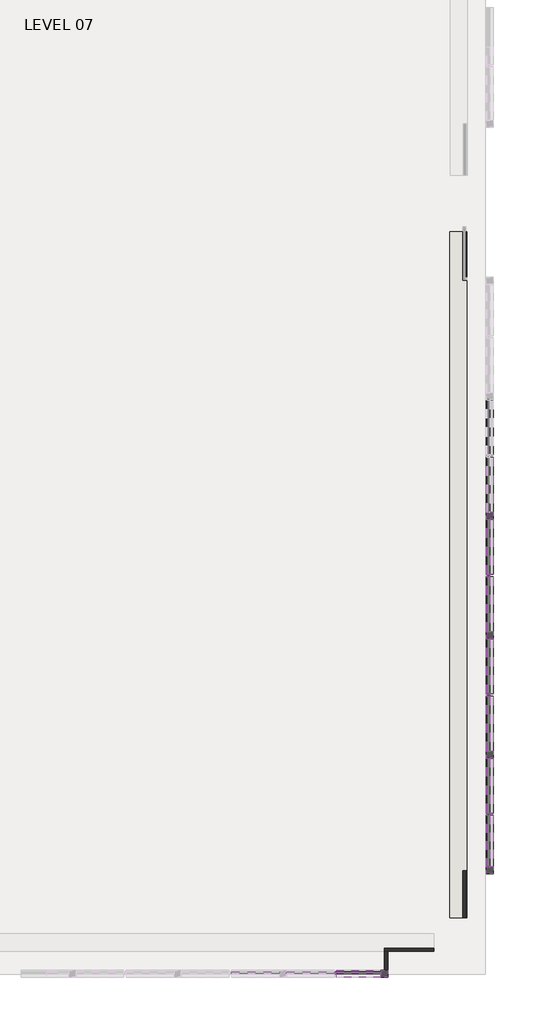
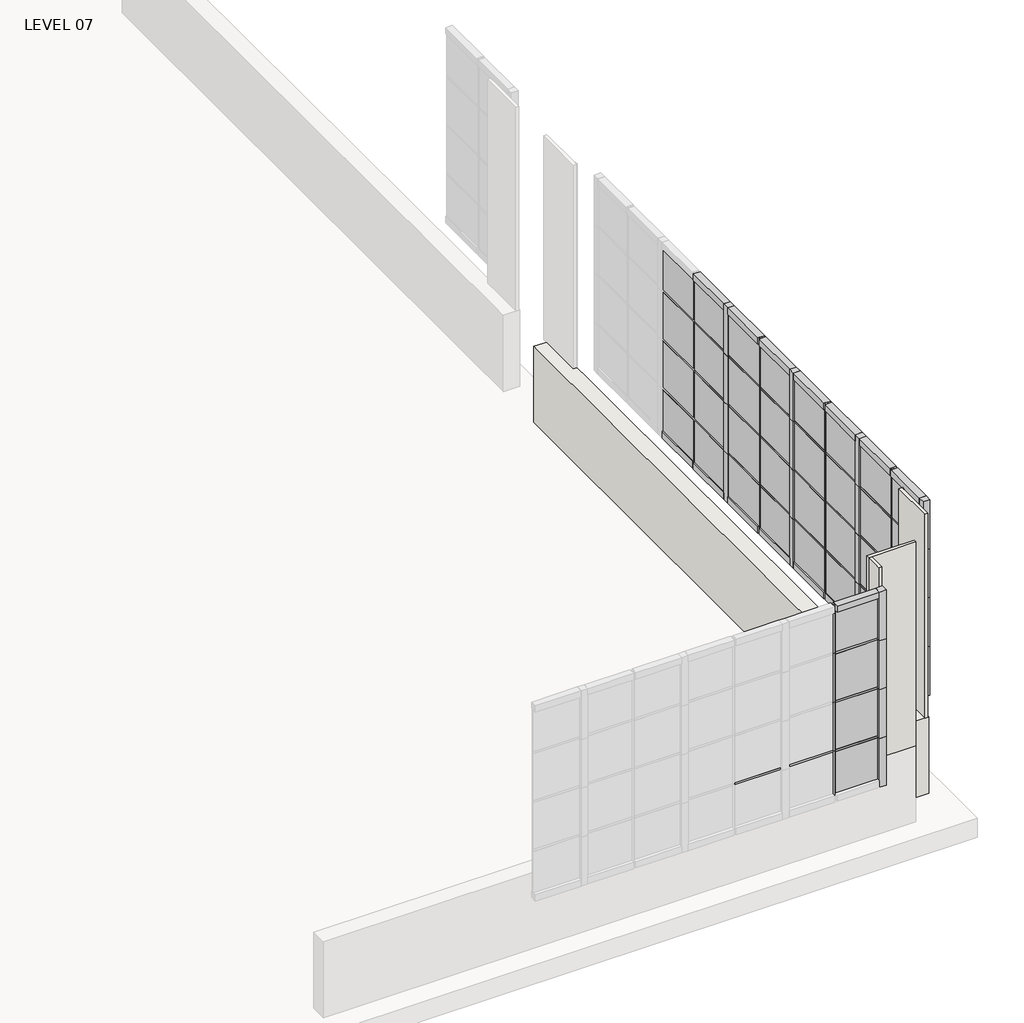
# One storey, part 7 of 15: 77 members, 36 plates, 5 walls.
"""IFC4 building model written with IfcOpenShell, lengths in millimetres."""

from ifc_helpers import new_model, si_unit, frame, origin, place, context, project, spatial, polyline, outline, extrude, faceted_brep, transform, mapped, element, save
from components import member_78bb2ef1, member_cb03ba1c, member_aa53491b, member_bfca4c7d, member_0337d645, member_9d26962d, member_378e0c06, member_17eb62f4, member_d1b01063, member_a415275a, system_panel_glazed_79ade883, system_panel_glazed_730530c4, system_panel_glazed_fe6fc7be, system_panel_glazed_a8cc2c5f, system_panel_glazed_92f702fb, system_panel_glazed_d94367f6

model = new_model("IFC4")

# Units and contexts
model_context = context("Model", 3, world=origin())
ifc_project = project(units=[si_unit("LENGTHUNIT", "METRE", prefix="MILLI")], contexts=[model_context])

# Site, building, storey
site = spatial("IfcSite", under=ifc_project)
building = spatial("IfcBuilding", under=site)
storey = spatial("IfcBuildingStorey", under=building, Name="LEVEL 07", Elevation=20802.6)

# Members
placement = place(None, origin())
member_shape = member_78bb2ef1(model_context)
element("IfcMember", 1, ObjectType="Rectangular Mullion : 1\" x 1\" - Butt Joint", at=placement, inside=storey, context=model_context, shape_type="MappedRepresentation", body=[
    mapped(member_shape, transform((-2104.3071136, -25119.8112062, 23342.6), x_axis=(1.0, 0.0, 0.0), y_axis=(0.0, -1.0, 0.0), z_axis=(0.0, 0.0, -1.0))),
])
element("IfcMember", 2, ObjectType="Rectangular Mullion : 1\" x 1\" - Butt Joint", at=placement, inside=storey, context=model_context, shape_type="MappedRepresentation", body=[
    mapped(member_shape, transform((-445.6849596, -23406.9972314, 23342.6), x_axis=(0.0, 1.0, 0.0), y_axis=(1.0, 0.0, 0.0), z_axis=(0.0, 0.0, -1.0))),
])
element("IfcMember", 3, ObjectType="Rectangular Mullion : 1\" x 1\" - Butt Joint", at=placement, inside=storey, context=model_context, shape_type="MappedRepresentation", body=[
    mapped(member_shape, transform((-445.6849596, -22116.6772314, 23342.6), x_axis=(0.0, 1.0, 0.0), y_axis=(1.0, 0.0, 0.0), z_axis=(0.0, 0.0, -1.0))),
])
element("IfcMember", 4, ObjectType="Rectangular Mullion : 1\" x 1\" - Butt Joint", at=placement, inside=storey, context=model_context, shape_type="MappedRepresentation", body=[
    mapped(member_shape, transform((-445.6849596, -20826.3572314, 23342.6), x_axis=(0.0, 1.0, 0.0), y_axis=(1.0, 0.0, 0.0), z_axis=(0.0, 0.0, -1.0))),
])
member_2_shape = member_cb03ba1c(model_context)
element("IfcMember", 5, ObjectType="Rectangular Mullion : 1\" x 1\" - Butt Joint", at=placement, inside=storey, context=model_context, shape_type="MappedRepresentation", body=[
    mapped(member_2_shape, transform((-2711.3671136, -25119.8112062, 22174.2), x_axis=(0.0, 0.0, 1.0), y_axis=(0.0, -1.0, 0.0), z_axis=(1.0, 0.0, 0.0))),
])
element("IfcMember", 6, ObjectType="Rectangular Mullion : 1\" x 1\" - Butt Joint", at=placement, inside=storey, context=model_context, shape_type="MappedRepresentation", body=[
    mapped(member_2_shape, transform((-2117.0071136, -25119.8112062, 22174.2), x_axis=(0.0, 0.0, 1.0), y_axis=(0.0, -1.0, 0.0), z_axis=(1.0, 0.0, 0.0))),
])
member_3_shape = member_aa53491b(model_context)
element("IfcMember", 7, ObjectType="Rectangular Mullion : 1\" x 1\" - Butt Joint", at=placement, inside=storey, context=model_context, shape_type="MappedRepresentation", body=[
    mapped(member_3_shape, transform((-1611.5471136, -25119.8112062, 23342.6), x_axis=(0.0, 0.0, 1.0), y_axis=(0.0, -1.0, 0.0), z_axis=(1.0, 0.0, 0.0))),
])
element("IfcMember", 8, ObjectType="Rectangular Mullion : 1\" x 1\" - Butt Joint", at=placement, inside=storey, context=model_context, shape_type="MappedRepresentation", body=[
    mapped(member_3_shape, transform((-1611.5471136, -25119.8112062, 22758.4), x_axis=(0.0, 0.0, 1.0), y_axis=(0.0, -1.0, 0.0), z_axis=(1.0, 0.0, 0.0))),
])
element("IfcMember", 9, ObjectType="Rectangular Mullion : 1\" x 1\" - Butt Joint", at=placement, inside=storey, context=model_context, shape_type="MappedRepresentation", body=[
    mapped(member_3_shape, transform((-1611.5471136, -25119.8112062, 22174.2), x_axis=(0.0, 0.0, 1.0), y_axis=(0.0, -1.0, 0.0), z_axis=(1.0, 0.0, 0.0))),
])
element("IfcMember", 10, ObjectType="Rectangular Mullion : 1\" x 1\" - Butt Joint", at=placement, inside=storey, context=model_context, shape_type="MappedRepresentation", body=[
    mapped(member_shape, transform((-2104.3071136, -25119.8112062, 22758.4), x_axis=(1.0, 0.0, 0.0), y_axis=(0.0, -1.0, 0.0), z_axis=(0.0, 0.0, -1.0))),
])
element("IfcMember", 11, ObjectType="Rectangular Mullion : 1\" x 1\" - Butt Joint", at=placement, inside=storey, context=model_context, shape_type="MappedRepresentation", body=[
    mapped(member_shape, transform((-2104.3071136, -25119.8112062, 22174.2), x_axis=(1.0, 0.0, 0.0), y_axis=(0.0, -1.0, 0.0), z_axis=(0.0, 0.0, -1.0))),
])
element("IfcMember", 12, ObjectType="Rectangular Mullion : 1\" x 1\" - Butt Joint", at=placement, inside=storey, context=model_context, shape_type="MappedRepresentation", body=[
    mapped(member_shape, transform((-445.6849596, -23406.9972314, 22174.2), x_axis=(0.0, 1.0, 0.0), y_axis=(1.0, 0.0, 0.0), z_axis=(0.0, 0.0, -1.0))),
])
element("IfcMember", 13, ObjectType="Rectangular Mullion : 1\" x 1\" - Butt Joint", at=placement, inside=storey, context=model_context, shape_type="MappedRepresentation", body=[
    mapped(member_shape, transform((-445.6849596, -23406.9972314, 22758.4), x_axis=(0.0, 1.0, 0.0), y_axis=(1.0, 0.0, 0.0), z_axis=(0.0, 0.0, -1.0))),
])
element("IfcMember", 14, ObjectType="Rectangular Mullion : 1\" x 1\" - Butt Joint", at=placement, inside=storey, context=model_context, shape_type="MappedRepresentation", body=[
    mapped(member_shape, transform((-445.6849596, -22116.6772314, 22174.2), x_axis=(0.0, 1.0, 0.0), y_axis=(1.0, 0.0, 0.0), z_axis=(0.0, 0.0, -1.0))),
])
element("IfcMember", 15, ObjectType="Rectangular Mullion : 1\" x 1\" - Butt Joint", at=placement, inside=storey, context=model_context, shape_type="MappedRepresentation", body=[
    mapped(member_shape, transform((-445.6849596, -22116.6772314, 22758.4), x_axis=(0.0, 1.0, 0.0), y_axis=(1.0, 0.0, 0.0), z_axis=(0.0, 0.0, -1.0))),
])
element("IfcMember", 16, ObjectType="Rectangular Mullion : 1\" x 1\" - Butt Joint", at=placement, inside=storey, context=model_context, shape_type="MappedRepresentation", body=[
    mapped(member_shape, transform((-445.6849596, -20826.3572314, 22174.2), x_axis=(0.0, 1.0, 0.0), y_axis=(1.0, 0.0, 0.0), z_axis=(0.0, 0.0, -1.0))),
])
element("IfcMember", 17, ObjectType="Rectangular Mullion : 1\" x 1\" - Butt Joint", at=placement, inside=storey, context=model_context, shape_type="MappedRepresentation", body=[
    mapped(member_shape, transform((-445.6849596, -20826.3572314, 22758.4), x_axis=(0.0, 1.0, 0.0), y_axis=(1.0, 0.0, 0.0), z_axis=(0.0, 0.0, -1.0))),
])
element("IfcMember", 18, ObjectType="Rectangular Mullion : 1\" x 1\" - Butt Joint", at=placement, inside=storey, context=model_context, shape_type="MappedRepresentation", body=[
    mapped(member_shape, transform((-2104.3071136, -25119.8112062, 21590.0), x_axis=(1.0, 0.0, 0.0), y_axis=(0.0, -1.0, 0.0), z_axis=(0.0, 0.0, -1.0))),
])
element("IfcMember", 19, ObjectType="Rectangular Mullion : 1\" x 1\" - Butt Joint", at=placement, inside=storey, context=model_context, shape_type="MappedRepresentation", body=[
    mapped(member_shape, transform((-445.6849596, -23406.9972314, 21590.0), x_axis=(0.0, 1.0, 0.0), y_axis=(1.0, 0.0, 0.0), z_axis=(0.0, 0.0, -1.0))),
])
element("IfcMember", 20, ObjectType="Rectangular Mullion : 1\" x 1\" - Butt Joint", at=placement, inside=storey, context=model_context, shape_type="MappedRepresentation", body=[
    mapped(member_shape, transform((-445.6849596, -22116.6772314, 21590.0), x_axis=(0.0, 1.0, 0.0), y_axis=(1.0, 0.0, 0.0), z_axis=(0.0, 0.0, -1.0))),
])
element("IfcMember", 21, ObjectType="Rectangular Mullion : 1\" x 1\" - Butt Joint", at=placement, inside=storey, context=model_context, shape_type="MappedRepresentation", body=[
    mapped(member_shape, transform((-445.6849596, -20826.3572314, 21590.0), x_axis=(0.0, 1.0, 0.0), y_axis=(1.0, 0.0, 0.0), z_axis=(0.0, 0.0, -1.0))),
])
member_4_shape = member_bfca4c7d(model_context)
element("IfcMember", 22, ObjectType="Rectangular Mullion : 1\" x 1\" - Butt Joint", at=placement, inside=storey, context=model_context, shape_type="MappedRepresentation", body=[
    mapped(member_4_shape, transform((-445.6849596, -20219.2972314, 23342.6), x_axis=(0.0, 0.0, 1.0), y_axis=(1.0, 0.0, 0.0), z_axis=(0.0, 1.0, 0.0))),
])
element("IfcMember", 23, ObjectType="Rectangular Mullion : 1\" x 1\" - Butt Joint", at=placement, inside=storey, context=model_context, shape_type="MappedRepresentation", body=[
    mapped(member_4_shape, transform((-445.6849596, -21509.6172314, 23342.6), x_axis=(0.0, 0.0, 1.0), y_axis=(1.0, 0.0, 0.0), z_axis=(0.0, 1.0, 0.0))),
])
element("IfcMember", 24, ObjectType="Rectangular Mullion : 1\" x 1\" - Butt Joint", at=placement, inside=storey, context=model_context, shape_type="MappedRepresentation", body=[
    mapped(member_4_shape, transform((-445.6849596, -22799.9372314, 23342.6), x_axis=(0.0, 0.0, 1.0), y_axis=(1.0, 0.0, 0.0), z_axis=(0.0, 1.0, 0.0))),
])
element("IfcMember", 25, ObjectType="Rectangular Mullion : 1\" x 1\" - Butt Joint", at=placement, inside=storey, context=model_context, shape_type="MappedRepresentation", body=[
    mapped(member_4_shape, transform((-445.6849596, -19548.7372314, 23342.6), x_axis=(0.0, 0.0, 1.0), y_axis=(1.0, 0.0, 0.0), z_axis=(0.0, 1.0, 0.0))),
])
element("IfcMember", 26, ObjectType="Rectangular Mullion : 1\" x 1\" - Butt Joint", at=placement, inside=storey, context=model_context, shape_type="MappedRepresentation", body=[
    mapped(member_4_shape, transform((-445.6849596, -20839.0572314, 23342.6), x_axis=(0.0, 0.0, 1.0), y_axis=(1.0, 0.0, 0.0), z_axis=(0.0, 1.0, 0.0))),
])
element("IfcMember", 27, ObjectType="Rectangular Mullion : 1\" x 1\" - Butt Joint", at=placement, inside=storey, context=model_context, shape_type="MappedRepresentation", body=[
    mapped(member_4_shape, transform((-445.6849596, -22129.3772314, 23342.6), x_axis=(0.0, 0.0, 1.0), y_axis=(1.0, 0.0, 0.0), z_axis=(0.0, 1.0, 0.0))),
])
element("IfcMember", 28, ObjectType="Rectangular Mullion : 1\" x 1\" - Butt Joint", at=placement, inside=storey, context=model_context, shape_type="MappedRepresentation", body=[
    mapped(member_4_shape, transform((-445.6849596, -20219.2972314, 22758.4), x_axis=(0.0, 0.0, 1.0), y_axis=(1.0, 0.0, 0.0), z_axis=(0.0, 1.0, 0.0))),
])
element("IfcMember", 29, ObjectType="Rectangular Mullion : 1\" x 1\" - Butt Joint", at=placement, inside=storey, context=model_context, shape_type="MappedRepresentation", body=[
    mapped(member_4_shape, transform((-445.6849596, -21509.6172314, 22758.4), x_axis=(0.0, 0.0, 1.0), y_axis=(1.0, 0.0, 0.0), z_axis=(0.0, 1.0, 0.0))),
])
element("IfcMember", 30, ObjectType="Rectangular Mullion : 1\" x 1\" - Butt Joint", at=placement, inside=storey, context=model_context, shape_type="MappedRepresentation", body=[
    mapped(member_4_shape, transform((-445.6849596, -22799.9372314, 22758.4), x_axis=(0.0, 0.0, 1.0), y_axis=(1.0, 0.0, 0.0), z_axis=(0.0, 1.0, 0.0))),
])
element("IfcMember", 31, ObjectType="Rectangular Mullion : 1\" x 1\" - Butt Joint", at=placement, inside=storey, context=model_context, shape_type="MappedRepresentation", body=[
    mapped(member_4_shape, transform((-445.6849596, -19548.7372314, 22758.4), x_axis=(0.0, 0.0, 1.0), y_axis=(1.0, 0.0, 0.0), z_axis=(0.0, 1.0, 0.0))),
])
element("IfcMember", 32, ObjectType="Rectangular Mullion : 1\" x 1\" - Butt Joint", at=placement, inside=storey, context=model_context, shape_type="MappedRepresentation", body=[
    mapped(member_4_shape, transform((-445.6849596, -20839.0572314, 22758.4), x_axis=(0.0, 0.0, 1.0), y_axis=(1.0, 0.0, 0.0), z_axis=(0.0, 1.0, 0.0))),
])
element("IfcMember", 33, ObjectType="Rectangular Mullion : 1\" x 1\" - Butt Joint", at=placement, inside=storey, context=model_context, shape_type="MappedRepresentation", body=[
    mapped(member_4_shape, transform((-445.6849596, -22129.3772314, 22758.4), x_axis=(0.0, 0.0, 1.0), y_axis=(1.0, 0.0, 0.0), z_axis=(0.0, 1.0, 0.0))),
])
element("IfcMember", 34, ObjectType="Rectangular Mullion : 1\" x 1\" - Butt Joint", at=placement, inside=storey, context=model_context, shape_type="MappedRepresentation", body=[
    mapped(member_4_shape, transform((-445.6849596, -20219.2972314, 22174.2), x_axis=(0.0, 0.0, 1.0), y_axis=(1.0, 0.0, 0.0), z_axis=(0.0, 1.0, 0.0))),
])
element("IfcMember", 35, ObjectType="Rectangular Mullion : 1\" x 1\" - Butt Joint", at=placement, inside=storey, context=model_context, shape_type="MappedRepresentation", body=[
    mapped(member_4_shape, transform((-445.6849596, -21509.6172314, 22174.2), x_axis=(0.0, 0.0, 1.0), y_axis=(1.0, 0.0, 0.0), z_axis=(0.0, 1.0, 0.0))),
])
element("IfcMember", 36, ObjectType="Rectangular Mullion : 1\" x 1\" - Butt Joint", at=placement, inside=storey, context=model_context, shape_type="MappedRepresentation", body=[
    mapped(member_4_shape, transform((-445.6849596, -22799.9372314, 22174.2), x_axis=(0.0, 0.0, 1.0), y_axis=(1.0, 0.0, 0.0), z_axis=(0.0, 1.0, 0.0))),
])
element("IfcMember", 37, ObjectType="Rectangular Mullion : 1\" x 1\" - Butt Joint", at=placement, inside=storey, context=model_context, shape_type="MappedRepresentation", body=[
    mapped(member_4_shape, transform((-445.6849596, -20839.0572314, 22174.2), x_axis=(0.0, 0.0, 1.0), y_axis=(1.0, 0.0, 0.0), z_axis=(0.0, 1.0, 0.0))),
])
element("IfcMember", 38, ObjectType="Rectangular Mullion : 1\" x 1\" - Butt Joint", at=placement, inside=storey, context=model_context, shape_type="MappedRepresentation", body=[
    mapped(member_4_shape, transform((-445.6849596, -22129.3772314, 22174.2), x_axis=(0.0, 0.0, 1.0), y_axis=(1.0, 0.0, 0.0), z_axis=(0.0, 1.0, 0.0))),
])
member_5_shape = member_0337d645(model_context)
element("IfcMember", 39, ObjectType="Rectangular Mullion : 1\" x 1\" - Butt Joint", at=placement, inside=storey, context=model_context, shape_type="MappedRepresentation", body=[
    mapped(member_5_shape, transform((-445.6849596, -23419.6972314, 23342.6), x_axis=(0.0, 0.0, 1.0), y_axis=(1.0, 0.0, 0.0), z_axis=(0.0, 1.0, 0.0))),
])
element("IfcMember", 40, ObjectType="Rectangular Mullion : 1\" x 1\" - Butt Joint", at=placement, inside=storey, context=model_context, shape_type="MappedRepresentation", body=[
    mapped(member_5_shape, transform((-445.6849596, -23419.6972314, 22758.4), x_axis=(0.0, 0.0, 1.0), y_axis=(1.0, 0.0, 0.0), z_axis=(0.0, 1.0, 0.0))),
])
element("IfcMember", 41, ObjectType="Rectangular Mullion : 1\" x 1\" - Butt Joint", at=placement, inside=storey, context=model_context, shape_type="MappedRepresentation", body=[
    mapped(member_5_shape, transform((-445.6849596, -23419.6972314, 22174.2), x_axis=(0.0, 0.0, 1.0), y_axis=(1.0, 0.0, 0.0), z_axis=(0.0, 1.0, 0.0))),
])
member_6_shape = member_9d26962d(model_context)
element("IfcMember", 42, ObjectType="Rectangular Mullion : 3\" x 3\" Window Jamb", at=placement, inside=storey, context=model_context, shape_type="MappedRepresentation", body=[
    mapped(member_6_shape, transform((-1611.5471136, -25119.8112062, 23926.8), x_axis=(0.0, 0.0, 1.0), y_axis=(0.0, -1.0, 0.0), z_axis=(1.0, 0.0, 0.0))),
])
member_7_shape = member_378e0c06(model_context)
element("IfcMember", 43, ObjectType="Rectangular Mullion : 3\" x 3\" Window Jamb", at=placement, inside=storey, context=model_context, shape_type="MappedRepresentation", body=[
    mapped(member_7_shape, transform((-445.6849596, -22761.8372314, 23342.6), x_axis=(0.0, 1.0, 0.0), y_axis=(1.0, 0.0, 0.0), z_axis=(0.0, 0.0, -1.0))),
])
element("IfcMember", 44, ObjectType="Rectangular Mullion : 3\" x 3\" Window Jamb", at=placement, inside=storey, context=model_context, shape_type="MappedRepresentation", body=[
    mapped(member_7_shape, transform((-445.6849596, -21471.5172314, 23342.6), x_axis=(0.0, 1.0, 0.0), y_axis=(1.0, 0.0, 0.0), z_axis=(0.0, 0.0, -1.0))),
])
element("IfcMember", 45, ObjectType="Rectangular Mullion : 3\" x 3\" Window Jamb", at=placement, inside=storey, context=model_context, shape_type="MappedRepresentation", body=[
    mapped(member_7_shape, transform((-445.6849596, -20181.1972314, 23342.6), x_axis=(0.0, 1.0, 0.0), y_axis=(1.0, 0.0, 0.0), z_axis=(0.0, 0.0, -1.0))),
])
member_8_shape = member_17eb62f4(model_context)
element("IfcMember", 46, ObjectType="Rectangular Mullion : 3\" x 3\" Window Jamb", at=placement, inside=storey, context=model_context, shape_type="MappedRepresentation", body=[
    mapped(member_8_shape, transform((-1535.3471136, -25119.8112062, 23342.6), x_axis=(1.0, 0.0, 0.0), y_axis=(0.0, -1.0, 0.0), z_axis=(0.0, 0.0, -1.0))),
])
element("IfcMember", 47, ObjectType="Rectangular Mullion : 3\" x 3\" Window Jamb", at=placement, inside=storey, context=model_context, shape_type="MappedRepresentation", body=[
    mapped(member_8_shape, transform((-445.6849596, -24052.1572314, 23926.8), x_axis=(0.0, -1.0, 0.0), y_axis=(1.0, 0.0, 0.0), z_axis=(0.0, 0.0, 1.0))),
])
element("IfcMember", 48, ObjectType="Rectangular Mullion : 3\" x 3\" Window Jamb", at=placement, inside=storey, context=model_context, shape_type="MappedRepresentation", body=[
    mapped(member_7_shape, transform((-445.6849596, -22761.8372314, 22174.2), x_axis=(0.0, 1.0, 0.0), y_axis=(1.0, 0.0, 0.0), z_axis=(0.0, 0.0, -1.0))),
])
element("IfcMember", 49, ObjectType="Rectangular Mullion : 3\" x 3\" Window Jamb", at=placement, inside=storey, context=model_context, shape_type="MappedRepresentation", body=[
    mapped(member_7_shape, transform((-445.6849596, -22761.8372314, 22758.4), x_axis=(0.0, 1.0, 0.0), y_axis=(1.0, 0.0, 0.0), z_axis=(0.0, 0.0, -1.0))),
])
element("IfcMember", 50, ObjectType="Rectangular Mullion : 3\" x 3\" Window Jamb", at=placement, inside=storey, context=model_context, shape_type="MappedRepresentation", body=[
    mapped(member_7_shape, transform((-445.6849596, -21471.5172314, 22174.2), x_axis=(0.0, 1.0, 0.0), y_axis=(1.0, 0.0, 0.0), z_axis=(0.0, 0.0, -1.0))),
])
element("IfcMember", 51, ObjectType="Rectangular Mullion : 3\" x 3\" Window Jamb", at=placement, inside=storey, context=model_context, shape_type="MappedRepresentation", body=[
    mapped(member_7_shape, transform((-445.6849596, -21471.5172314, 22758.4), x_axis=(0.0, 1.0, 0.0), y_axis=(1.0, 0.0, 0.0), z_axis=(0.0, 0.0, -1.0))),
])
element("IfcMember", 52, ObjectType="Rectangular Mullion : 3\" x 3\" Window Jamb", at=placement, inside=storey, context=model_context, shape_type="MappedRepresentation", body=[
    mapped(member_7_shape, transform((-445.6849596, -20181.1972314, 22174.2), x_axis=(0.0, 1.0, 0.0), y_axis=(1.0, 0.0, 0.0), z_axis=(0.0, 0.0, -1.0))),
])
element("IfcMember", 53, ObjectType="Rectangular Mullion : 3\" x 3\" Window Jamb", at=placement, inside=storey, context=model_context, shape_type="MappedRepresentation", body=[
    mapped(member_7_shape, transform((-445.6849596, -20181.1972314, 22758.4), x_axis=(0.0, 1.0, 0.0), y_axis=(1.0, 0.0, 0.0), z_axis=(0.0, 0.0, -1.0))),
])
element("IfcMember", 54, ObjectType="Rectangular Mullion : 3\" x 3\" Window Jamb", at=placement, inside=storey, context=model_context, shape_type="MappedRepresentation", body=[
    mapped(member_8_shape, transform((-1535.3471136, -25119.8112062, 22758.4), x_axis=(1.0, 0.0, 0.0), y_axis=(0.0, -1.0, 0.0), z_axis=(0.0, 0.0, -1.0))),
])
element("IfcMember", 55, ObjectType="Rectangular Mullion : 3\" x 3\" Window Jamb", at=placement, inside=storey, context=model_context, shape_type="MappedRepresentation", body=[
    mapped(member_8_shape, transform((-1535.3471136, -25119.8112062, 22174.2), x_axis=(1.0, 0.0, 0.0), y_axis=(0.0, -1.0, 0.0), z_axis=(0.0, 0.0, -1.0))),
])
element("IfcMember", 56, ObjectType="Rectangular Mullion : 3\" x 3\" Window Jamb", at=placement, inside=storey, context=model_context, shape_type="MappedRepresentation", body=[
    mapped(member_8_shape, transform((-445.6849596, -24052.1572314, 23342.6), x_axis=(0.0, -1.0, 0.0), y_axis=(1.0, 0.0, 0.0), z_axis=(0.0, 0.0, 1.0))),
])
element("IfcMember", 57, ObjectType="Rectangular Mullion : 3\" x 3\" Window Jamb", at=placement, inside=storey, context=model_context, shape_type="MappedRepresentation", body=[
    mapped(member_8_shape, transform((-445.6849596, -24052.1572314, 22758.4), x_axis=(0.0, -1.0, 0.0), y_axis=(1.0, 0.0, 0.0), z_axis=(0.0, 0.0, 1.0))),
])
element("IfcMember", 58, ObjectType="Rectangular Mullion : 3\" x 3\" Window Jamb", at=placement, inside=storey, context=model_context, shape_type="MappedRepresentation", body=[
    mapped(member_7_shape, transform((-445.6849596, -22761.8372314, 21590.0), x_axis=(0.0, 1.0, 0.0), y_axis=(1.0, 0.0, 0.0), z_axis=(0.0, 0.0, -1.0))),
])
element("IfcMember", 59, ObjectType="Rectangular Mullion : 3\" x 3\" Window Jamb", at=placement, inside=storey, context=model_context, shape_type="MappedRepresentation", body=[
    mapped(member_7_shape, transform((-445.6849596, -21471.5172314, 21590.0), x_axis=(0.0, 1.0, 0.0), y_axis=(1.0, 0.0, 0.0), z_axis=(0.0, 0.0, -1.0))),
])
element("IfcMember", 60, ObjectType="Rectangular Mullion : 3\" x 3\" Window Jamb", at=placement, inside=storey, context=model_context, shape_type="MappedRepresentation", body=[
    mapped(member_7_shape, transform((-445.6849596, -20181.1972314, 21590.0), x_axis=(0.0, 1.0, 0.0), y_axis=(1.0, 0.0, 0.0), z_axis=(0.0, 0.0, -1.0))),
])
element("IfcMember", 61, ObjectType="Rectangular Mullion : 3\" x 3\" Window Jamb", at=placement, inside=storey, context=model_context, shape_type="MappedRepresentation", body=[
    mapped(member_8_shape, transform((-1535.3471136, -25119.8112062, 21590.0), x_axis=(1.0, 0.0, 0.0), y_axis=(0.0, -1.0, 0.0), z_axis=(0.0, 0.0, -1.0))),
])
element("IfcMember", 62, ObjectType="Rectangular Mullion : 3\" x 3\" Window Jamb", at=placement, inside=storey, context=model_context, shape_type="MappedRepresentation", body=[
    mapped(member_8_shape, transform((-445.6849596, -24052.1572314, 22174.2), x_axis=(0.0, -1.0, 0.0), y_axis=(1.0, 0.0, 0.0), z_axis=(0.0, 0.0, 1.0))),
])
member_9_shape = member_d1b01063(model_context)
element("IfcMember", 63, ObjectType="Rectangular Mullion : 3\" x 3\" Window Jamb", at=placement, inside=storey, context=model_context, shape_type="MappedRepresentation", body=[
    mapped(member_9_shape, transform((-445.6849596, -23419.6972314, 23926.8), x_axis=(0.0, 0.0, 1.0), y_axis=(1.0, 0.0, 0.0), z_axis=(0.0, 1.0, 0.0))),
])
member_10_shape = member_a415275a(model_context)
element("IfcMember", 64, ObjectType="Rectangular Mullion : 3\" x 3\" Window Jamb", at=placement, inside=storey, context=model_context, shape_type="MappedRepresentation", body=[
    mapped(member_10_shape, transform((-445.6849596, -19548.7372314, 23926.8), x_axis=(0.0, 0.0, 1.0), y_axis=(1.0, 0.0, 0.0), z_axis=(0.0, 1.0, 0.0))),
])
element("IfcMember", 65, ObjectType="Rectangular Mullion : 3\" x 3\" Window Jamb", at=placement, inside=storey, context=model_context, shape_type="MappedRepresentation", body=[
    mapped(member_10_shape, transform((-445.6849596, -20839.0572314, 23926.8), x_axis=(0.0, 0.0, 1.0), y_axis=(1.0, 0.0, 0.0), z_axis=(0.0, 1.0, 0.0))),
])
element("IfcMember", 66, ObjectType="Rectangular Mullion : 3\" x 3\" Window Jamb", at=placement, inside=storey, context=model_context, shape_type="MappedRepresentation", body=[
    mapped(member_10_shape, transform((-445.6849596, -22129.3772314, 23926.8), x_axis=(0.0, 0.0, 1.0), y_axis=(1.0, 0.0, 0.0), z_axis=(0.0, 1.0, 0.0))),
])
element("IfcMember", 67, ObjectType="Rectangular Mullion : 3\" x 3\" Window Jamb", at=placement, inside=storey, context=model_context, shape_type="MappedRepresentation", body=[
    mapped(member_10_shape, transform((-445.6849596, -20219.2972314, 23926.8), x_axis=(0.0, 0.0, 1.0), y_axis=(1.0, 0.0, 0.0), z_axis=(0.0, 1.0, 0.0))),
])
element("IfcMember", 68, ObjectType="Rectangular Mullion : 3\" x 3\" Window Jamb", at=placement, inside=storey, context=model_context, shape_type="MappedRepresentation", body=[
    mapped(member_10_shape, transform((-445.6849596, -21509.6172314, 23926.8), x_axis=(0.0, 0.0, 1.0), y_axis=(1.0, 0.0, 0.0), z_axis=(0.0, 1.0, 0.0))),
])
element("IfcMember", 69, ObjectType="Rectangular Mullion : 3\" x 3\" Window Jamb", at=placement, inside=storey, context=model_context, shape_type="MappedRepresentation", body=[
    mapped(member_10_shape, transform((-445.6849596, -22799.9372314, 23926.8), x_axis=(0.0, 0.0, 1.0), y_axis=(1.0, 0.0, 0.0), z_axis=(0.0, 1.0, 0.0))),
])
element("IfcMember", 70, ObjectType="Rectangular Mullion : 3\" x 3\" Window Jamb", at=placement, inside=storey, context=model_context, shape_type="MappedRepresentation", body=[
    mapped(member_10_shape, transform((-445.6849596, -19523.3372314, 21590.0), x_axis=(0.0, 0.0, -1.0), y_axis=(1.0, 0.0, 0.0), z_axis=(0.0, -1.0, 0.0))),
])
element("IfcMember", 71, ObjectType="Rectangular Mullion : 3\" x 3\" Window Jamb", at=placement, inside=storey, context=model_context, shape_type="MappedRepresentation", body=[
    mapped(member_10_shape, transform((-445.6849596, -20813.6572314, 21590.0), x_axis=(0.0, 0.0, -1.0), y_axis=(1.0, 0.0, 0.0), z_axis=(0.0, -1.0, 0.0))),
])
element("IfcMember", 72, ObjectType="Rectangular Mullion : 3\" x 3\" Window Jamb", at=placement, inside=storey, context=model_context, shape_type="MappedRepresentation", body=[
    mapped(member_10_shape, transform((-445.6849596, -22103.9772314, 21590.0), x_axis=(0.0, 0.0, -1.0), y_axis=(1.0, 0.0, 0.0), z_axis=(0.0, -1.0, 0.0))),
])
element("IfcMember", 73, ObjectType="Rectangular Mullion : 3\" x 3\" Window Jamb", at=placement, inside=storey, context=model_context, shape_type="MappedRepresentation", body=[
    mapped(member_10_shape, transform((-445.6849596, -23394.2972314, 21590.0), x_axis=(0.0, 0.0, -1.0), y_axis=(1.0, 0.0, 0.0), z_axis=(0.0, -1.0, 0.0))),
])
element("IfcMember", 74, ObjectType="Rectangular Mullion : 3\" x 3\" Window Jamb", at=placement, inside=storey, context=model_context, shape_type="MappedRepresentation", body=[
    mapped(member_10_shape, transform((-445.6849596, -20143.0972314, 21590.0), x_axis=(0.0, 0.0, -1.0), y_axis=(1.0, 0.0, 0.0), z_axis=(0.0, -1.0, 0.0))),
])
element("IfcMember", 75, ObjectType="Rectangular Mullion : 3\" x 3\" Window Jamb", at=placement, inside=storey, context=model_context, shape_type="MappedRepresentation", body=[
    mapped(member_10_shape, transform((-445.6849596, -21433.4172314, 21590.0), x_axis=(0.0, 0.0, -1.0), y_axis=(1.0, 0.0, 0.0), z_axis=(0.0, -1.0, 0.0))),
])
element("IfcMember", 76, ObjectType="Rectangular Mullion : 3\" x 3\" Window Jamb", at=placement, inside=storey, context=model_context, shape_type="MappedRepresentation", body=[
    mapped(member_10_shape, transform((-445.6849596, -22723.7372314, 21590.0), x_axis=(0.0, 0.0, -1.0), y_axis=(1.0, 0.0, 0.0), z_axis=(0.0, -1.0, 0.0))),
])
element("IfcMember", 77, ObjectType="Rectangular Mullion : 3\" x 3\" Window Jamb", at=placement, inside=storey, context=model_context, shape_type="MappedRepresentation", body=[
    mapped(member_9_shape, transform((-445.6849596, -23975.9572314, 21590.0), x_axis=(0.0, 0.0, -1.0), y_axis=(1.0, 0.0, 0.0), z_axis=(0.0, -1.0, 0.0))),
])

# Plates
system_panel_glazed_shape = system_panel_glazed_79ade883(model_context)
element("IfcPlate", 78, ObjectType="System Panel : Glazed", at=placement, inside=storey, context=model_context, shape_type="MappedRepresentation", body=[
    mapped(system_panel_glazed_shape, transform((-1851.5771136, -25119.8112062, 21666.2), x_axis=(1.0, 0.0, 0.0), y_axis=(0.0, 1.0, 0.0), z_axis=(0.0, 0.0, 1.0))),
])
element("IfcPlate", 79, ObjectType="System Panel : Glazed", at=placement, inside=storey, context=model_context, shape_type="MappedRepresentation", body=[
    mapped(system_panel_glazed_shape, transform((-1851.5771136, -25119.8112062, 23355.3), x_axis=(1.0, 0.0, 0.0), y_axis=(0.0, 1.0, 0.0), z_axis=(0.0, 0.0, 1.0))),
])
system_panel_glazed_2_shape = system_panel_glazed_730530c4(model_context)
element("IfcPlate", 80, ObjectType="System Panel : Glazed", at=placement, inside=storey, context=model_context, shape_type="MappedRepresentation", body=[
    mapped(system_panel_glazed_2_shape, transform((-1851.5771136, -25119.8112062, 22186.9), x_axis=(1.0, 0.0, 0.0), y_axis=(0.0, 1.0, 0.0), z_axis=(0.0, 0.0, 1.0))),
])
element("IfcPlate", 81, ObjectType="System Panel : Glazed", at=placement, inside=storey, context=model_context, shape_type="MappedRepresentation", body=[
    mapped(system_panel_glazed_2_shape, transform((-1851.5771136, -25119.8112062, 22771.1), x_axis=(1.0, 0.0, 0.0), y_axis=(0.0, 1.0, 0.0), z_axis=(0.0, 0.0, 1.0))),
])
system_panel_glazed_3_shape = system_panel_glazed_fe6fc7be(model_context)
element("IfcPlate", 82, ObjectType="System Panel : Glazed", at=placement, inside=storey, context=model_context, shape_type="MappedRepresentation", body=[
    mapped(system_panel_glazed_3_shape, transform((-445.6849596, -23697.8272314, 21666.2), x_axis=(0.0, 1.0, 0.0), y_axis=(-1.0, 0.0, 0.0), z_axis=(0.0, 0.0, 1.0))),
])
element("IfcPlate", 83, ObjectType="System Panel : Glazed", at=placement, inside=storey, context=model_context, shape_type="MappedRepresentation", body=[
    mapped(system_panel_glazed_3_shape, transform((-445.6849596, -23697.8272314, 23355.3), x_axis=(0.0, 1.0, 0.0), y_axis=(-1.0, 0.0, 0.0), z_axis=(0.0, 0.0, 1.0))),
])
system_panel_glazed_4_shape = system_panel_glazed_a8cc2c5f(model_context)
element("IfcPlate", 84, ObjectType="System Panel : Glazed", at=placement, inside=storey, context=model_context, shape_type="MappedRepresentation", body=[
    mapped(system_panel_glazed_4_shape, transform((-445.6849596, -22426.5572314, 21666.2), x_axis=(0.0, 1.0, 0.0), y_axis=(-1.0, 0.0, 0.0), z_axis=(0.0, 0.0, 1.0))),
])
element("IfcPlate", 85, ObjectType="System Panel : Glazed", at=placement, inside=storey, context=model_context, shape_type="MappedRepresentation", body=[
    mapped(system_panel_glazed_4_shape, transform((-445.6849596, -21136.2372314, 21666.2), x_axis=(0.0, 1.0, 0.0), y_axis=(-1.0, 0.0, 0.0), z_axis=(0.0, 0.0, 1.0))),
])
element("IfcPlate", 86, ObjectType="System Panel : Glazed", at=placement, inside=storey, context=model_context, shape_type="MappedRepresentation", body=[
    mapped(system_panel_glazed_4_shape, transform((-445.6849596, -19845.9172314, 21666.2), x_axis=(0.0, 1.0, 0.0), y_axis=(-1.0, 0.0, 0.0), z_axis=(0.0, 0.0, 1.0))),
])
element("IfcPlate", 87, ObjectType="System Panel : Glazed", at=placement, inside=storey, context=model_context, shape_type="MappedRepresentation", body=[
    mapped(system_panel_glazed_4_shape, transform((-445.6849596, -22426.5572314, 23355.3), x_axis=(0.0, 1.0, 0.0), y_axis=(-1.0, 0.0, 0.0), z_axis=(0.0, 0.0, 1.0))),
])
element("IfcPlate", 88, ObjectType="System Panel : Glazed", at=placement, inside=storey, context=model_context, shape_type="MappedRepresentation", body=[
    mapped(system_panel_glazed_4_shape, transform((-445.6849596, -21136.2372314, 23355.3), x_axis=(0.0, 1.0, 0.0), y_axis=(-1.0, 0.0, 0.0), z_axis=(0.0, 0.0, 1.0))),
])
element("IfcPlate", 89, ObjectType="System Panel : Glazed", at=placement, inside=storey, context=model_context, shape_type="MappedRepresentation", body=[
    mapped(system_panel_glazed_4_shape, transform((-445.6849596, -19845.9172314, 23355.3), x_axis=(0.0, 1.0, 0.0), y_axis=(-1.0, 0.0, 0.0), z_axis=(0.0, 0.0, 1.0))),
])
element("IfcPlate", 90, ObjectType="System Panel : Glazed", at=placement, inside=storey, context=model_context, shape_type="MappedRepresentation", body=[
    mapped(system_panel_glazed_4_shape, transform((-445.6849596, -23097.1172314, 21666.2), x_axis=(0.0, 1.0, 0.0), y_axis=(-1.0, 0.0, 0.0), z_axis=(0.0, 0.0, 1.0))),
])
element("IfcPlate", 91, ObjectType="System Panel : Glazed", at=placement, inside=storey, context=model_context, shape_type="MappedRepresentation", body=[
    mapped(system_panel_glazed_4_shape, transform((-445.6849596, -23097.1172314, 23355.3), x_axis=(0.0, 1.0, 0.0), y_axis=(-1.0, 0.0, 0.0), z_axis=(0.0, 0.0, 1.0))),
])
element("IfcPlate", 92, ObjectType="System Panel : Glazed", at=placement, inside=storey, context=model_context, shape_type="MappedRepresentation", body=[
    mapped(system_panel_glazed_4_shape, transform((-445.6849596, -21806.7972314, 21666.2), x_axis=(0.0, 1.0, 0.0), y_axis=(-1.0, 0.0, 0.0), z_axis=(0.0, 0.0, 1.0))),
])
element("IfcPlate", 93, ObjectType="System Panel : Glazed", at=placement, inside=storey, context=model_context, shape_type="MappedRepresentation", body=[
    mapped(system_panel_glazed_4_shape, transform((-445.6849596, -21806.7972314, 23355.3), x_axis=(0.0, 1.0, 0.0), y_axis=(-1.0, 0.0, 0.0), z_axis=(0.0, 0.0, 1.0))),
])
element("IfcPlate", 94, ObjectType="System Panel : Glazed", at=placement, inside=storey, context=model_context, shape_type="MappedRepresentation", body=[
    mapped(system_panel_glazed_4_shape, transform((-445.6849596, -20516.4772314, 21666.2), x_axis=(0.0, 1.0, 0.0), y_axis=(-1.0, 0.0, 0.0), z_axis=(0.0, 0.0, 1.0))),
])
element("IfcPlate", 95, ObjectType="System Panel : Glazed", at=placement, inside=storey, context=model_context, shape_type="MappedRepresentation", body=[
    mapped(system_panel_glazed_4_shape, transform((-445.6849596, -20516.4772314, 23355.3), x_axis=(0.0, 1.0, 0.0), y_axis=(-1.0, 0.0, 0.0), z_axis=(0.0, 0.0, 1.0))),
])
element("IfcPlate", 96, ObjectType="System Panel : Glazed", at=placement, inside=storey, context=model_context, shape_type="MappedRepresentation", body=[
    mapped(system_panel_glazed_4_shape, transform((-445.6849596, -19226.1572314, 21666.2), x_axis=(0.0, 1.0, 0.0), y_axis=(-1.0, 0.0, 0.0), z_axis=(0.0, 0.0, 1.0))),
])
element("IfcPlate", 97, ObjectType="System Panel : Glazed", at=placement, inside=storey, context=model_context, shape_type="MappedRepresentation", body=[
    mapped(system_panel_glazed_4_shape, transform((-445.6849596, -19226.1572314, 23355.3), x_axis=(0.0, 1.0, 0.0), y_axis=(-1.0, 0.0, 0.0), z_axis=(0.0, 0.0, 1.0))),
])
system_panel_glazed_5_shape = system_panel_glazed_92f702fb(model_context)
element("IfcPlate", 98, ObjectType="System Panel : Glazed", at=placement, inside=storey, context=model_context, shape_type="MappedRepresentation", body=[
    mapped(system_panel_glazed_5_shape, transform((-445.6849596, -23697.8272314, 22771.1), x_axis=(0.0, 1.0, 0.0), y_axis=(-1.0, 0.0, 0.0), z_axis=(0.0, 0.0, 1.0))),
])
element("IfcPlate", 99, ObjectType="System Panel : Glazed", at=placement, inside=storey, context=model_context, shape_type="MappedRepresentation", body=[
    mapped(system_panel_glazed_5_shape, transform((-445.6849596, -23697.8272314, 22186.9), x_axis=(0.0, 1.0, 0.0), y_axis=(-1.0, 0.0, 0.0), z_axis=(0.0, 0.0, 1.0))),
])
system_panel_glazed_6_shape = system_panel_glazed_d94367f6(model_context)
element("IfcPlate", 100, ObjectType="System Panel : Glazed", at=placement, inside=storey, context=model_context, shape_type="MappedRepresentation", body=[
    mapped(system_panel_glazed_6_shape, transform((-445.6849596, -22426.5572314, 22771.1), x_axis=(0.0, 1.0, 0.0), y_axis=(-1.0, 0.0, 0.0), z_axis=(0.0, 0.0, 1.0))),
])
element("IfcPlate", 101, ObjectType="System Panel : Glazed", at=placement, inside=storey, context=model_context, shape_type="MappedRepresentation", body=[
    mapped(system_panel_glazed_6_shape, transform((-445.6849596, -21136.2372314, 22771.1), x_axis=(0.0, 1.0, 0.0), y_axis=(-1.0, 0.0, 0.0), z_axis=(0.0, 0.0, 1.0))),
])
element("IfcPlate", 102, ObjectType="System Panel : Glazed", at=placement, inside=storey, context=model_context, shape_type="MappedRepresentation", body=[
    mapped(system_panel_glazed_6_shape, transform((-445.6849596, -19845.9172314, 22771.1), x_axis=(0.0, 1.0, 0.0), y_axis=(-1.0, 0.0, 0.0), z_axis=(0.0, 0.0, 1.0))),
])
element("IfcPlate", 103, ObjectType="System Panel : Glazed", at=placement, inside=storey, context=model_context, shape_type="MappedRepresentation", body=[
    mapped(system_panel_glazed_6_shape, transform((-445.6849596, -22426.5572314, 22186.9), x_axis=(0.0, 1.0, 0.0), y_axis=(-1.0, 0.0, 0.0), z_axis=(0.0, 0.0, 1.0))),
])
element("IfcPlate", 104, ObjectType="System Panel : Glazed", at=placement, inside=storey, context=model_context, shape_type="MappedRepresentation", body=[
    mapped(system_panel_glazed_6_shape, transform((-445.6849596, -21136.2372314, 22186.9), x_axis=(0.0, 1.0, 0.0), y_axis=(-1.0, 0.0, 0.0), z_axis=(0.0, 0.0, 1.0))),
])
element("IfcPlate", 105, ObjectType="System Panel : Glazed", at=placement, inside=storey, context=model_context, shape_type="MappedRepresentation", body=[
    mapped(system_panel_glazed_6_shape, transform((-445.6849596, -19845.9172314, 22186.9), x_axis=(0.0, 1.0, 0.0), y_axis=(-1.0, 0.0, 0.0), z_axis=(0.0, 0.0, 1.0))),
])
element("IfcPlate", 106, ObjectType="System Panel : Glazed", at=placement, inside=storey, context=model_context, shape_type="MappedRepresentation", body=[
    mapped(system_panel_glazed_6_shape, transform((-445.6849596, -23097.1172314, 22186.9), x_axis=(0.0, 1.0, 0.0), y_axis=(-1.0, 0.0, 0.0), z_axis=(0.0, 0.0, 1.0))),
])
element("IfcPlate", 107, ObjectType="System Panel : Glazed", at=placement, inside=storey, context=model_context, shape_type="MappedRepresentation", body=[
    mapped(system_panel_glazed_6_shape, transform((-445.6849596, -23097.1172314, 22771.1), x_axis=(0.0, 1.0, 0.0), y_axis=(-1.0, 0.0, 0.0), z_axis=(0.0, 0.0, 1.0))),
])
element("IfcPlate", 108, ObjectType="System Panel : Glazed", at=placement, inside=storey, context=model_context, shape_type="MappedRepresentation", body=[
    mapped(system_panel_glazed_6_shape, transform((-445.6849596, -21806.7972314, 22186.9), x_axis=(0.0, 1.0, 0.0), y_axis=(-1.0, 0.0, 0.0), z_axis=(0.0, 0.0, 1.0))),
])
element("IfcPlate", 109, ObjectType="System Panel : Glazed", at=placement, inside=storey, context=model_context, shape_type="MappedRepresentation", body=[
    mapped(system_panel_glazed_6_shape, transform((-445.6849596, -21806.7972314, 22771.1), x_axis=(0.0, 1.0, 0.0), y_axis=(-1.0, 0.0, 0.0), z_axis=(0.0, 0.0, 1.0))),
])
element("IfcPlate", 110, ObjectType="System Panel : Glazed", at=placement, inside=storey, context=model_context, shape_type="MappedRepresentation", body=[
    mapped(system_panel_glazed_6_shape, transform((-445.6849596, -20516.4772314, 22186.9), x_axis=(0.0, 1.0, 0.0), y_axis=(-1.0, 0.0, 0.0), z_axis=(0.0, 0.0, 1.0))),
])
element("IfcPlate", 111, ObjectType="System Panel : Glazed", at=placement, inside=storey, context=model_context, shape_type="MappedRepresentation", body=[
    mapped(system_panel_glazed_6_shape, transform((-445.6849596, -20516.4772314, 22771.1), x_axis=(0.0, 1.0, 0.0), y_axis=(-1.0, 0.0, 0.0), z_axis=(0.0, 0.0, 1.0))),
])
element("IfcPlate", 112, ObjectType="System Panel : Glazed", at=placement, inside=storey, context=model_context, shape_type="MappedRepresentation", body=[
    mapped(system_panel_glazed_6_shape, transform((-445.6849596, -19226.1572314, 22186.9), x_axis=(0.0, 1.0, 0.0), y_axis=(-1.0, 0.0, 0.0), z_axis=(0.0, 0.0, 1.0))),
])
element("IfcPlate", 113, ObjectType="System Panel : Glazed", at=placement, inside=storey, context=model_context, shape_type="MappedRepresentation", body=[
    mapped(system_panel_glazed_6_shape, transform((-445.6849596, -19226.1572314, 22771.1), x_axis=(0.0, 1.0, 0.0), y_axis=(-1.0, 0.0, 0.0), z_axis=(0.0, 0.0, 1.0))),
])

# Walls
element("IfcWall", 114, ObjectType="Partition A6_", at=placement, inside=storey, context=model_context, shape_type="SweptSolid", body=[
    extrude(outline(polyline([(-683.8099596, -17109.5101345), (-683.8099596, -24526.3101345), (-867.9599596, -24526.3101345), (-867.9599596, -17109.5101345), (-683.8099596, -17109.5101345)])), frame((0.0, 0.0, 20802.6), z_axis=(0.0, 0.0, 1.0), x_axis=(1.0, 0.0, 0.0)), (0.0, 0.0, 1.0), 914.4),
])
element("IfcWall", 115, ObjectType="Partition F0_", at=placement, inside=storey, context=model_context, shape_type="Brep", body=[
    faceted_brep([(-1573.0245492, -24889.8476345, 21717.0), (-1538.0995492, -24889.8476345, 21717.0), (-1036.5369128, -24889.8476345, 21717.0), (-1036.5369128, -24889.8476345, 24155.4), (-1538.0995492, -24889.8476345, 24155.4), (-1573.0245492, -24889.8476345, 24155.4), (-1573.0245492, -24854.9226345, 21717.0), (-1573.0245492, -24854.9226345, 24155.4), (-1036.5369128, -24854.9226345, 24155.4), (-1036.5369128, -24854.9226345, 21717.0)], [[[0, 1, 2, 3, 4, 5]], [[6, 7, 8, 9]], [[2, 1, 0, 6, 9]], [[3, 2, 9, 8]], [[5, 4, 3, 8, 7]], [[0, 5, 7, 6]]]),
])
element("IfcWall", 116, ObjectType="Partition F0_", at=placement, inside=storey, context=model_context, shape_type="Brep", body=[
    faceted_brep([(-691.7474596, -24526.3101345, 21717.0), (-691.7474596, -24052.1572314, 21717.0), (-691.7474596, -24017.2322314, 21717.0), (-691.7474596, -24017.2322314, 24155.4), (-691.7474596, -24052.1572314, 24155.4), (-691.7474596, -24526.3101345, 24155.4), (-726.6724596, -24526.3101345, 21717.0), (-726.6724596, -24526.3101345, 24155.4), (-726.6724596, -24017.2322314, 24155.4), (-726.6724596, -24017.2322314, 21717.0)], [[[0, 1, 2, 3, 4, 5]], [[6, 7, 8, 9]], [[2, 1, 0, 6, 9]], [[5, 4, 3, 8, 7]], [[0, 5, 7, 6]], [[3, 2, 9, 8]]]),
])
element("IfcWall", 117, ObjectType="Partition F0_", at=placement, inside=storey, context=model_context, shape_type="SweptSolid", body=[
    extrude(outline(polyline([(-683.8099596, -24052.1572314), (-691.7474596, -24052.1572314), (-691.7474596, -24017.2322314), (-683.8099596, -24017.2322314), (-683.8099596, -24052.1572314)])), frame((0.0, 0.0, 21717.0), z_axis=(0.0, 0.0, 1.0), x_axis=(1.0, 0.0, 0.0)), (0.0, 0.0, 1.0), 2438.4),
])
element("IfcWall", 118, ObjectType="Partition F0_", at=placement, inside=storey, context=model_context, shape_type="SweptSolid", body=[
    extrude(outline(polyline([(-1538.0995492, -24889.8476345), (-1538.0995492, -25086.7648215), (-1573.0245492, -25086.7648215), (-1573.0245492, -24889.8476345), (-1538.0995492, -24889.8476345)])), frame((0.0, 0.0, 21717.0), z_axis=(0.0, 0.0, 1.0), x_axis=(1.0, 0.0, 0.0)), (0.0, 0.0, 1.0), 2438.4),
])

save(model, "model.ifc")
